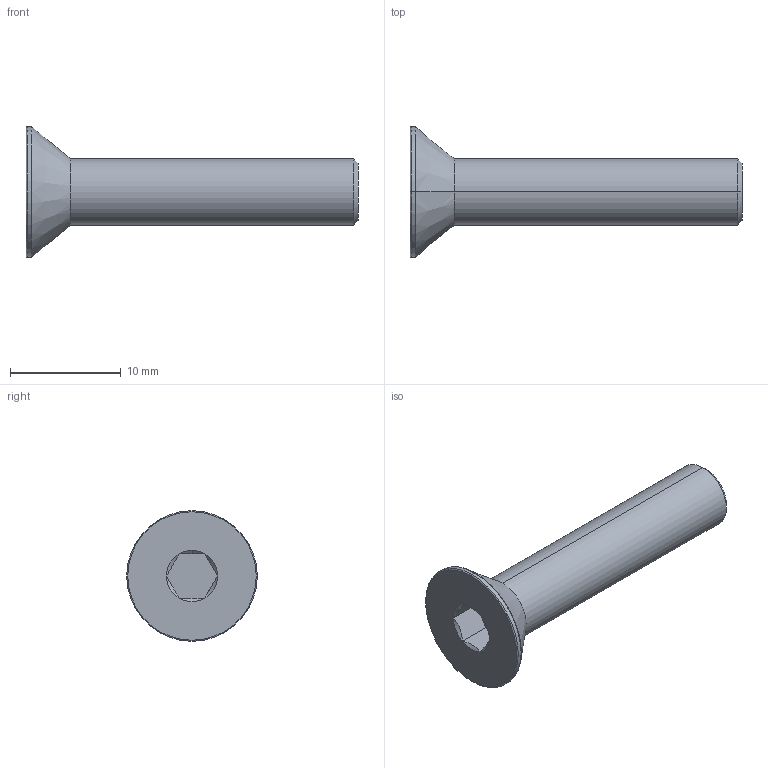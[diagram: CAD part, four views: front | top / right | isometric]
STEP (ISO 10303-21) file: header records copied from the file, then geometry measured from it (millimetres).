
FILE_DESCRIPTION (( 'STEP AP203' ), '1' );
FILE_NAME ('LGDB-TDE-M6x30.STEP', '2026-08-10T13:07:08', ( '' ), ( '' ), 'SwSTEP 2.0', 'SolidWorks 2020', '' );
FILE_SCHEMA (( 'CONFIG_CONTROL_DESIGN' ));
Length unit declared in the file: millimetre
Products named in the file (1): LGDB-TDE-M6x30
Bounding box: 30 x 11.8 x 11.8 mm (x, y, z)
Volume: 971.9 mm3; surface area: 807.1 mm2
Topology: 1 solids, 1 shells, 28 faces, 53 edges, 28 vertices
Faces by surface type: cone 11, plane 9, torus 4, cylinder 4
Entity records: 796 total; most frequent: CARTESIAN_POINT 157, DIRECTION 129, ORIENTED_EDGE 106, AXIS2_PLACEMENT_3D 54, EDGE_CURVE 53, EDGE_LOOP 29, ADVANCED_FACE 28, VERTEX_POINT 28
